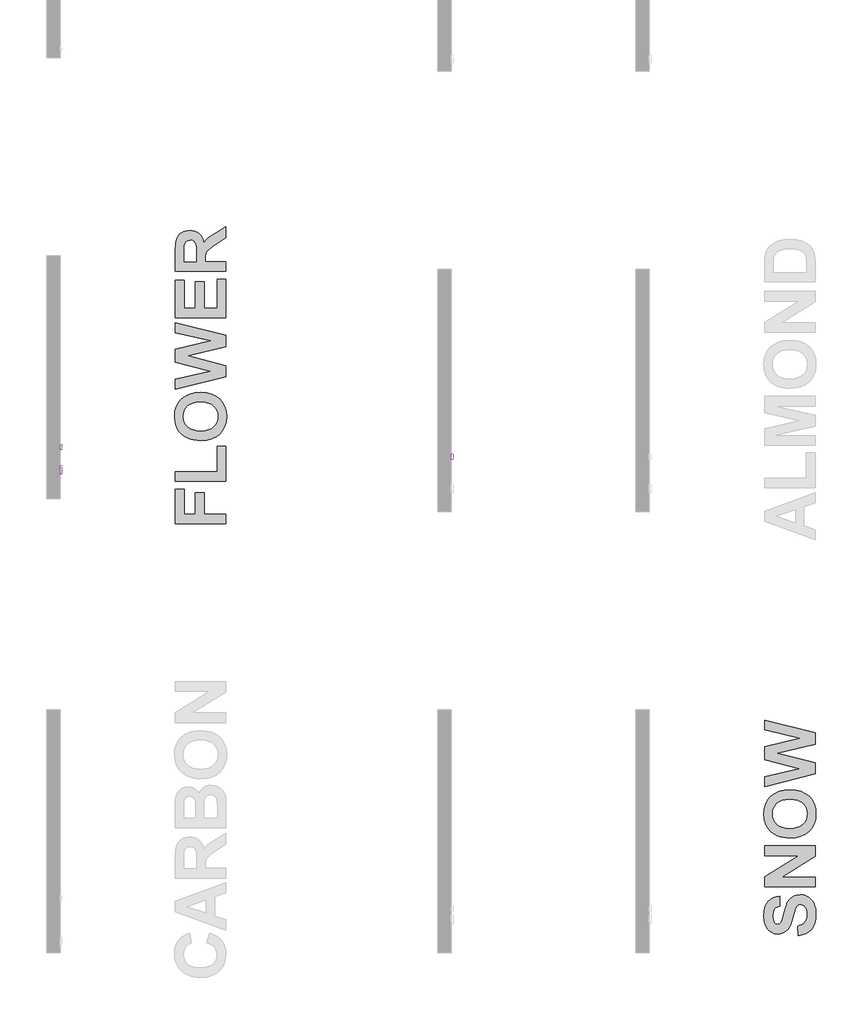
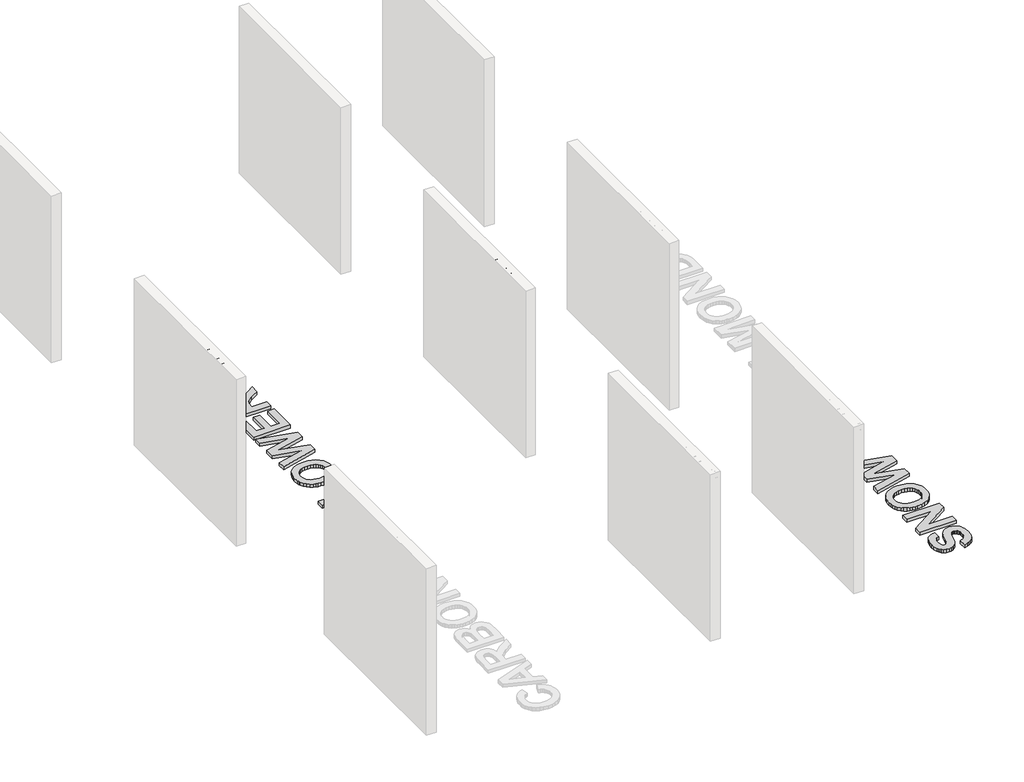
# One storey, part 5 of 10: 5 proxies.
"""IFC4 building model written with IfcOpenShell, lengths in millimetres."""

from ifc_helpers import new_model, si_unit, frame, origin, origin_with_axes, place, context, project, spatial, polyline, outline, extrude, element, save

model = new_model("IFC4")

# Units and contexts
model_context = context("Model", 3, world=origin())
ifc_project = project(units=[si_unit("LENGTHUNIT", "METRE", prefix="MILLI")], contexts=[model_context])

# Site, building, storey
site = spatial("IfcSite", under=ifc_project)
building = spatial("IfcBuilding", under=site)
storey = spatial("IfcBuildingStorey", under=building, Name="PORTOBELLO - SHOWROOM", Elevation=0.0)

# Proxies
placement = place(None, origin())
element("IfcBuildingElementProxy", 1, Name="10mm Arial", ObjectType="10mm Arial", at=placement, inside=storey, context=model_context, shape_type="SweptSolid", body=[
    extrude(outline(polyline([(-4161.6101893, 2518.4745677), (-4161.6101893, 2618.9308778), (-4094.1161059, 2618.9308778), (-4094.1161059, 2606.373839), (-4149.0531505, 2606.373839), (-4149.0531505, 2576.550872), (-4101.9642551, 2576.550872), (-4101.9642551, 2563.9938332), (-4149.0531505, 2563.9938332), (-4149.0531505, 2518.4745677), (-4161.6101893, 2518.4745677)])), frame((-30275.742133, 0.0, 0.0), z_axis=(1.0, 0.0, 0.0), x_axis=(0.0, 1.0, 0.0)), (0.0, 0.0, 1.0), 20.0),
    extrude(outline(polyline([(-30255.742133, -4065.8627687), (-30255.742133, -4078.4198074), (-30275.742133, -4078.4198074), (-30275.742133, -4065.8627687), (-30255.742133, -4065.8627687)])), frame((0.0, 0.0, 2518.4745677), z_axis=(0.0, 0.0, 1.0), x_axis=(1.0, 0.0, 0.0)), (0.0, 0.0, 1.0), 100.4563101),
    extrude(outline(polyline([(-4050.1664702, 2555.360869), (-4047.4502748, 2573.1479635), (-4039.3016886, 2585.64982), (-4029.2339847, 2591.7750552), (-4017.179718, 2593.8168003), (-4003.9880828, 2591.3305311), (-3993.4513293, 2583.8717237), (-3986.5443448, 2572.0289891), (-3984.2420167, 2556.3909386), (-3988.3132441, 2534.0482388), (-4000.1713071, 2521.4053609), (-4017.179718, 2516.9049378), (-4030.5307687, 2519.3820099), (-4041.0552594, 2526.8132262), (-4047.8886675, 2538.9042811), (-4050.1664702, 2555.360869)]), holes=[polyline([(-4037.6094314, 2555.3853945), (-4036.1562975, 2544.0209065), (-4031.7968959, 2535.924437), (-4025.2363337, 2531.0775917), (-4017.179718, 2529.4619766), (-4009.1598905, 2531.0867887), (-4002.611591, 2535.9612252), (-3998.2521893, 2544.1649937), (-3996.7990554, 2555.777802), (-3998.2613864, 2566.8111961), (-4002.6483792, 2574.7973011), (-4009.2058757, 2579.6441464), (-4017.179718, 2581.2597615), (-4025.2363337, 2579.6502778), (-4031.7968959, 2574.8218266), (-4036.1562975, 2566.7437511), (-4037.6094314, 2555.3853945)])]), frame((-30275.742133, 0.0, 0.0), z_axis=(1.0, 0.0, 0.0), x_axis=(0.0, 1.0, 0.0)), (0.0, 0.0, 1.0), 20.0),
    extrude(outline(polyline([(-3957.8771403, 2518.4745677), (-3980.317942, 2592.2471704), (-3967.270394, 2592.2471704), (-3954.5416769, 2549.204977), (-3950.7402296, 2533.8275096), (-3947.6254954, 2548.6408913), (-3937.4964778, 2592.2471704), (-3922.5359433, 2592.2471704), (-3912.4559767, 2548.7635186), (-3909.684599, 2535.3480885), (-3905.7114734, 2549.4992826), (-3892.9582309, 2592.2471704), (-3879.8616319, 2592.2471704), (-3902.4741119, 2518.4745677), (-3917.6553755, 2518.4745677), (-3927.2938838, 2561.7374903), (-3930.089787, 2575.2264968), (-3942.5241984, 2518.4745677), (-3957.8771403, 2518.4745677)])), frame((-30275.742133, 0.0, 0.0), z_axis=(1.0, 0.0, 0.0), x_axis=(0.0, 1.0, 0.0)), (0.0, 0.0, 1.0), 20.0),
    extrude(outline(polyline([(-3819.5780356, 2540.4493855), (-3807.2662515, 2538.8797557), (-3811.7022952, 2529.602998), (-3818.780958, 2522.6684224), (-3828.3428242, 2518.345809), (-3840.2284783, 2516.9049378), (-3854.9621522, 2519.391207), (-3866.299049, 2526.8500144), (-3873.5279302, 2538.7969822), (-3875.9375573, 2554.7477324), (-3873.5034047, 2571.2349771), (-3866.2009471, 2583.5651553), (-3855.0173345, 2591.253889), (-3840.9397168, 2593.8168003), (-3827.3004918, 2591.2600204), (-3816.4019877, 2583.5896808), (-3809.25588, 2571.2840281), (-3806.8738441, 2554.8213088), (-3806.9474205, 2551.4367944), (-3863.3805185, 2551.4367944), (-3861.2069491, 2542.0374095), (-3856.1577687, 2535.1273593), (-3848.8706395, 2530.8783223), (-3839.9832236, 2529.4619766), (-3827.6714395, 2532.0862015), (-3819.5780356, 2540.4493855)]), holes=[polyline([(-3863.3805185, 2563.9938332), (-3819.4308828, 2563.9938332), (-3824.4586034, 2575.3736496), (-3831.7794551, 2579.7882335), (-3840.9887677, 2581.2597615), (-3856.4520743, 2576.5631347), (-3861.3173137, 2571.0724959), (-3863.3805185, 2563.9938332)])]), frame((-30275.742133, 0.0, 0.0), z_axis=(1.0, 0.0, 0.0), x_axis=(0.0, 1.0, 0.0)), (0.0, 0.0, 1.0), 20.0),
    extrude(outline(polyline([(-3794.3168053, 2518.4745677), (-3794.3168053, 2592.2471704), (-3783.3293964, 2592.2471704), (-3783.3293964, 2581.3333379), (-3775.5302981, 2591.3887791), (-3767.6821488, 2593.8168003), (-3755.0760591, 2589.9417766), (-3759.2699139, 2578.6845875), (-3768.0990818, 2581.2597615), (-3775.1992043, 2578.7826894), (-3779.7241528, 2571.9155588), (-3781.7597665, 2557.24933), (-3781.7597665, 2518.4745677), (-3794.3168053, 2518.4745677)])), frame((-30275.742133, 0.0, 0.0), z_axis=(1.0, 0.0, 0.0), x_axis=(0.0, 1.0, 0.0)), (0.0, 0.0, 1.0), 20.0),
])
element("IfcBuildingElementProxy", 2, Name="10mm Arial Narrow", ObjectType="10mm Arial Narrow", at=placement, inside=storey, context=model_context, shape_type="SweptSolid", body=[
    extrude(outline(polyline([(-3709.2962896, 2518.4745677), (-3709.2962896, 2619.1931714), (-3677.999405, 2619.1931714), (-3661.7037034, 2617.3148507), (-3650.2307173, 2607.8344075), (-3645.9410389, 2590.8152987), (-3647.7273473, 2578.7394731), (-3653.0862725, 2569.1130794), (-3662.8300613, 2562.811821), (-3677.7709605, 2560.7114015), (-3699.549328, 2560.7114015), (-3699.549328, 2518.4745677), (-3709.2962896, 2518.4745677)]), holes=[polyline([(-3699.549328, 2572.0828568), (-3676.577973, 2572.0828568), (-3660.7137776, 2576.613671), (-3655.6880005, 2590.2822617), (-3658.162815, 2600.4480381), (-3664.1404439, 2606.247988), (-3676.8064175, 2607.8217162), (-3699.549328, 2607.8217162), (-3699.549328, 2572.0828568)])]), frame((-30275.742133, 0.0, 0.0), z_axis=(1.0, 0.0, 0.0), x_axis=(0.0, 1.0, 0.0)), (0.0, 0.0, 1.0), 20.0),
    extrude(outline(polyline([(-3637.8185708, 2555.0256739), (-3635.864102, 2571.6164494), (-3630.0006954, 2583.5685342), (-3621.1421286, 2590.7930888), (-3610.2021795, 2593.2012737), (-3599.3891439, 2590.7930888), (-3590.5051945, 2583.5685342), (-3584.5656397, 2571.8068198), (-3582.5857881, 2555.7871552), (-3584.5307385, 2538.6252687), (-3590.3655896, 2526.4828135), (-3599.2146378, 2519.2582589), (-3610.2021795, 2516.8500741), (-3621.0628077, 2519.2646046), (-3629.9372386, 2526.5081962), (-3635.8482378, 2538.4666267), (-3637.8185708, 2555.0256739)]), holes=[polyline([(-3628.0716092, 2555.0510566), (-3626.7675723, 2542.4993052), (-3622.8554617, 2533.6280471), (-3617.014265, 2528.3547886), (-3609.9229697, 2526.5970357), (-3603.2028965, 2528.3706528), (-3597.5108232, 2533.6915039), (-3593.6272681, 2542.5786262), (-3592.3327498, 2555.0510566), (-3593.6367867, 2567.5647339), (-3597.5488972, 2576.4233006), (-3603.390094, 2581.6965592), (-3610.4813893, 2583.454312), (-3617.2490551, 2581.6870407), (-3622.9316099, 2576.3852265), (-3626.7866094, 2567.5171413), (-3628.0716092, 2555.0510566)])]), frame((-30275.742133, 0.0, 0.0), z_axis=(1.0, 0.0, 0.0), x_axis=(0.0, 1.0, 0.0)), (0.0, 0.0, 1.0), 20.0),
    extrude(outline(polyline([(-3511.1080694, 2526.5970357), (-3509.4835757, 2516.8500741), (-3516.8445624, 2516.8500741), (-3525.1193267, 2518.9695306), (-3529.4343879, 2524.7694804), (-3530.6019927, 2539.4153056), (-3530.6019927, 2581.8298184), (-3538.7244607, 2581.8298184), (-3538.7244607, 2585.0788056), (-3540.3489543, 2580.2053248), (-3547.9130027, 2581.8298184), (-3553.9921624, 2579.5073002), (-3557.863026, 2573.0220171), (-3559.8428776, 2557.6147106), (-3559.8428776, 2518.4745677), (-3569.5898393, 2518.4745677), (-3569.5898393, 2591.5767801), (-3559.8428776, 2591.5767801), (-3559.8428776, 2581.8805838), (-3553.5987303, 2590.967595), (-3547.2022867, 2593.2012737), (-3538.7244607, 2591.5767801), (-3530.6019927, 2591.5767801), (-3530.6019927, 2607.8217162), (-3520.855031, 2615.9441842), (-3520.855031, 2591.5767801), (-3511.1080694, 2591.5767801), (-3511.1080694, 2581.8298184), (-3520.855031, 2581.8298184), (-3520.855031, 2537.1816269), (-3519.9920188, 2529.1860724), (-3515.3723651, 2526.5970357), (-3511.1080694, 2526.5970357)])), frame((-30275.742133, 0.0, 0.0), z_axis=(1.0, 0.0, 0.0), x_axis=(0.0, 1.0, 0.0)), (0.0, 0.0, 1.0), 20.0),
    extrude(outline(polyline([(-3504.6100949, 2555.0256739), (-3502.655626, 2571.6164494), (-3496.7922194, 2583.5685342), (-3487.9336527, 2590.7930888), (-3476.9937036, 2593.2012737), (-3466.180668, 2590.7930888), (-3457.2967186, 2583.5685342), (-3451.3571638, 2571.8068198), (-3449.3773122, 2555.7871552), (-3451.3222626, 2538.6252687), (-3457.1571136, 2526.4828135), (-3466.0061618, 2519.2582589), (-3476.9937036, 2516.8500741), (-3487.8543317, 2519.2646046), (-3496.7287626, 2526.5081962), (-3502.6397618, 2538.4666267), (-3504.6100949, 2555.0256739)]), holes=[polyline([(-3494.8631333, 2555.0510566), (-3493.5590964, 2542.4993052), (-3489.6469858, 2533.6280471), (-3483.8057891, 2528.3547886), (-3476.7144937, 2526.5970357), (-3469.9944206, 2528.3706528), (-3464.3023472, 2533.6915039), (-3460.4187922, 2542.5786262), (-3459.1242739, 2555.0510566), (-3460.4283107, 2567.5647339), (-3464.3404213, 2576.4233006), (-3470.1816181, 2581.6965592), (-3477.2729134, 2583.454312), (-3484.0405792, 2581.6870407), (-3489.723134, 2576.3852265), (-3493.5781334, 2567.5171413), (-3494.8631333, 2555.0510566)])]), frame((-30275.742133, 0.0, 0.0), z_axis=(1.0, 0.0, 0.0), x_axis=(0.0, 1.0, 0.0)), (0.0, 0.0, 1.0), 20.0),
    extrude(outline(polyline([(-3426.6344017, 2518.4745677), (-3436.3813633, 2518.4745677), (-3436.3813633, 2619.1931714), (-3426.6344017, 2619.1931714), (-3426.6344017, 2583.7842873), (-3419.235341, 2590.8660641), (-3410.0341076, 2593.2012737), (-3397.152381, 2589.0004347), (-3387.8749995, 2576.2710043), (-3384.3975679, 2555.5840935), (-3386.3298269, 2539.1297501), (-3392.1266039, 2526.927011), (-3400.4997262, 2519.3693083), (-3410.1610212, 2516.8500741), (-3419.5018594, 2519.4644935), (-3426.6344017, 2527.2316035), (-3426.6344017, 2518.4745677)]), holes=[polyline([(-3426.6344017, 2555.5840935), (-3424.5530193, 2538.3365403), (-3418.6642299, 2529.6048872), (-3410.2117866, 2526.5970357), (-3404.269059, 2528.3865169), (-3399.0307017, 2533.7549607), (-3394.1445295, 2555.1779701), (-3398.8530227, 2576.613671), (-3404.0977257, 2581.7441518), (-3410.4148483, 2583.454312), (-3416.3924771, 2581.6648308), (-3421.6847727, 2576.2963871), (-3426.6344017, 2555.5840935)])]), frame((-30275.742133, 0.0, 0.0), z_axis=(1.0, 0.0, 0.0), x_axis=(0.0, 1.0, 0.0)), (0.0, 0.0, 1.0), 20.0),
    extrude(outline(polyline([(-3332.4137724, 2541.2174782), (-3322.6668107, 2539.5929846), (-3326.3663411, 2529.706418), (-3332.185328, 2522.5865671), (-3339.8889812, 2518.2841973), (-3349.2425109, 2516.8500741), (-3360.8360649, 2519.2646046), (-3369.9801871, 2526.5081962), (-3375.9197418, 2538.3143304), (-3377.8995934, 2554.4164888), (-3375.9102233, 2571.0834124), (-3369.942113, 2583.2639417), (-3360.9280772, 2590.7169407), (-3349.8009305, 2593.2012737), (-3339.1179813, 2590.8026073), (-3330.370464, 2583.6066083), (-3324.5356129, 2571.8671037), (-3322.5906626, 2555.8379207), (-3322.6668107, 2552.5889335), (-3368.1526318, 2552.5889335), (-3362.1496202, 2533.1457756), (-3356.219584, 2528.2342207), (-3349.1155973, 2526.5970357), (-3338.9371295, 2530.2521463), (-3332.4137724, 2541.2174782)]), holes=[polyline([(-3367.4926812, 2562.3358951), (-3332.4137724, 2562.3358951), (-3336.6780681, 2576.6009796), (-3342.5034006, 2581.7409789), (-3349.7247824, 2583.454312), (-3361.9338672, 2577.7432017), (-3367.4926812, 2562.3358951)])]), frame((-30275.742133, 0.0, 0.0), z_axis=(1.0, 0.0, 0.0), x_axis=(0.0, 1.0, 0.0)), (0.0, 0.0, 1.0), 20.0),
    extrude(outline(polyline([(-30255.742133, -3299.9239002), (-30255.742133, -3309.6708618), (-30275.742133, -3309.6708618), (-30275.742133, -3299.9239002), (-30255.742133, -3299.9239002)])), frame((0.0, 0.0, 2518.4745677), z_axis=(0.0, 0.0, 1.0), x_axis=(1.0, 0.0, 0.0)), (0.0, 0.0, 1.0), 100.7186038),
    extrude(outline(polyline([(-30255.742133, -3273.9320025), (-30255.742133, -3283.6789641), (-30275.742133, -3283.6789641), (-30275.742133, -3273.9320025), (-30255.742133, -3273.9320025)])), frame((0.0, 0.0, 2518.4745677), z_axis=(0.0, 0.0, 1.0), x_axis=(1.0, 0.0, 0.0)), (0.0, 0.0, 1.0), 100.7186038),
    extrude(outline(polyline([(-3262.5605472, 2555.0256739), (-3260.6060783, 2571.6164494), (-3254.7426717, 2583.5685342), (-3245.884105, 2590.7930888), (-3234.9441558, 2593.2012737), (-3224.1311203, 2590.7930888), (-3215.2471708, 2583.5685342), (-3209.3076161, 2571.8068198), (-3207.3277645, 2555.7871552), (-3209.2727148, 2538.6252687), (-3215.1075659, 2526.4828135), (-3223.9566141, 2519.2582589), (-3234.9441558, 2516.8500741), (-3245.804784, 2519.2646046), (-3254.6792149, 2526.5081962), (-3260.5902141, 2538.4666267), (-3262.5605472, 2555.0256739)]), holes=[polyline([(-3252.8135855, 2555.0510566), (-3251.5095487, 2542.4993052), (-3247.5974381, 2533.6280471), (-3241.7562413, 2528.3547886), (-3234.664946, 2526.5970357), (-3227.9448728, 2528.3706528), (-3222.2527995, 2533.6915039), (-3218.3692445, 2542.5786262), (-3217.0747261, 2555.0510566), (-3218.378763, 2567.5647339), (-3222.2908736, 2576.4233006), (-3228.1320703, 2581.6965592), (-3235.2233657, 2583.454312), (-3241.9910314, 2581.6870407), (-3247.6735862, 2576.3852265), (-3251.5285857, 2567.5171413), (-3252.8135855, 2555.0510566)])]), frame((-30275.742133, 0.0, 0.0), z_axis=(1.0, 0.0, 0.0), x_axis=(0.0, 1.0, 0.0)), (0.0, 0.0, 1.0), 20.0),
])
element("IfcBuildingElementProxy", 3, Name="10mm Arial Narrow", ObjectType="10mm Arial Narrow", at=placement, inside=storey, context=model_context, shape_type="SweptSolid", body=[
    extrude(outline(polyline([(-3815.6286257, 2518.4745677), (-3815.6286257, 2619.1931714), (-3784.3317411, 2619.1931714), (-3768.0360395, 2617.3148507), (-3756.5630534, 2607.8344075), (-3752.273375, 2590.8152987), (-3754.0596834, 2578.7394731), (-3759.4186086, 2569.1130794), (-3769.1623974, 2562.811821), (-3784.1032966, 2560.7114015), (-3805.8816641, 2560.7114015), (-3805.8816641, 2518.4745677), (-3815.6286257, 2518.4745677)]), holes=[polyline([(-3805.8816641, 2572.0828568), (-3782.9103091, 2572.0828568), (-3767.0461137, 2576.613671), (-3762.0203366, 2590.2822617), (-3764.4951511, 2600.4480381), (-3770.47278, 2606.247988), (-3783.1387536, 2607.8217162), (-3805.8816641, 2607.8217162), (-3805.8816641, 2572.0828568)])]), frame((-25926.2609603, 0.0, 0.0), z_axis=(1.0, 0.0, 0.0), x_axis=(0.0, 1.0, 0.0)), (0.0, 0.0, 1.0), 20.0),
    extrude(outline(polyline([(-3744.1509069, 2555.0256739), (-3742.1964381, 2571.6164494), (-3736.3330315, 2583.5685342), (-3727.4744647, 2590.7930888), (-3716.5345156, 2593.2012737), (-3705.72148, 2590.7930888), (-3696.8375306, 2583.5685342), (-3690.8979758, 2571.8068198), (-3688.9181242, 2555.7871552), (-3690.8630746, 2538.6252687), (-3696.6979257, 2526.4828135), (-3705.5469739, 2519.2582589), (-3716.5345156, 2516.8500741), (-3727.3951438, 2519.2646046), (-3736.2695747, 2526.5081962), (-3742.1805739, 2538.4666267), (-3744.1509069, 2555.0256739)]), holes=[polyline([(-3734.4039453, 2555.0510566), (-3733.0999084, 2542.4993052), (-3729.1877978, 2533.6280471), (-3723.3466011, 2528.3547886), (-3716.2553058, 2526.5970357), (-3709.5352326, 2528.3706528), (-3703.8431593, 2533.6915039), (-3699.9596042, 2542.5786262), (-3698.6650859, 2555.0510566), (-3699.9691228, 2567.5647339), (-3703.8812333, 2576.4233006), (-3709.7224301, 2581.6965592), (-3716.8137254, 2583.454312), (-3723.5813912, 2581.6870407), (-3729.263946, 2576.3852265), (-3733.1189455, 2567.5171413), (-3734.4039453, 2555.0510566)])]), frame((-25926.2609603, 0.0, 0.0), z_axis=(1.0, 0.0, 0.0), x_axis=(0.0, 1.0, 0.0)), (0.0, 0.0, 1.0), 20.0),
    extrude(outline(polyline([(-3617.4404054, 2526.5970357), (-3615.8159118, 2516.8500741), (-3623.1768985, 2516.8500741), (-3631.4516628, 2518.9695306), (-3635.766724, 2524.7694804), (-3636.9343288, 2539.4153056), (-3636.9343288, 2581.8298184), (-3645.0567968, 2581.8298184), (-3645.0567968, 2585.0788056), (-3646.6812904, 2580.2053248), (-3654.2453388, 2581.8298184), (-3660.3244985, 2579.5073002), (-3664.1953621, 2573.0220171), (-3666.1752137, 2557.6147106), (-3666.1752137, 2518.4745677), (-3675.9221754, 2518.4745677), (-3675.9221754, 2591.5767801), (-3666.1752137, 2591.5767801), (-3666.1752137, 2581.8805838), (-3659.9310664, 2590.967595), (-3653.5346228, 2593.2012737), (-3645.0567968, 2591.5767801), (-3636.9343288, 2591.5767801), (-3636.9343288, 2607.8217162), (-3627.1873671, 2615.9441842), (-3627.1873671, 2591.5767801), (-3617.4404054, 2591.5767801), (-3617.4404054, 2581.8298184), (-3627.1873671, 2581.8298184), (-3627.1873671, 2537.1816269), (-3626.3243549, 2529.1860724), (-3621.7047012, 2526.5970357), (-3617.4404054, 2526.5970357)])), frame((-25926.2609603, 0.0, 0.0), z_axis=(1.0, 0.0, 0.0), x_axis=(0.0, 1.0, 0.0)), (0.0, 0.0, 1.0), 20.0),
    extrude(outline(polyline([(-3610.942431, 2555.0256739), (-3608.9879621, 2571.6164494), (-3603.1245555, 2583.5685342), (-3594.2659888, 2590.7930888), (-3583.3260397, 2593.2012737), (-3572.5130041, 2590.7930888), (-3563.6290547, 2583.5685342), (-3557.6894999, 2571.8068198), (-3555.7096483, 2555.7871552), (-3557.6545987, 2538.6252687), (-3563.4894497, 2526.4828135), (-3572.3384979, 2519.2582589), (-3583.3260397, 2516.8500741), (-3594.1866678, 2519.2646046), (-3603.0610987, 2526.5081962), (-3608.9720979, 2538.4666267), (-3610.942431, 2555.0256739)]), holes=[polyline([(-3601.1954694, 2555.0510566), (-3599.8914325, 2542.4993052), (-3595.9793219, 2533.6280471), (-3590.1381252, 2528.3547886), (-3583.0468298, 2526.5970357), (-3576.3267567, 2528.3706528), (-3570.6346833, 2533.6915039), (-3566.7511283, 2542.5786262), (-3565.45661, 2555.0510566), (-3566.7606468, 2567.5647339), (-3570.6727574, 2576.4233006), (-3576.5139542, 2581.6965592), (-3583.6052495, 2583.454312), (-3590.3729153, 2581.6870407), (-3596.05547, 2576.3852265), (-3599.9104695, 2567.5171413), (-3601.1954694, 2555.0510566)])]), frame((-25926.2609603, 0.0, 0.0), z_axis=(1.0, 0.0, 0.0), x_axis=(0.0, 1.0, 0.0)), (0.0, 0.0, 1.0), 20.0),
    extrude(outline(polyline([(-3532.9667378, 2518.4745677), (-3542.7136994, 2518.4745677), (-3542.7136994, 2619.1931714), (-3532.9667378, 2619.1931714), (-3532.9667378, 2583.7842873), (-3525.5676771, 2590.8660641), (-3516.3664437, 2593.2012737), (-3503.4847171, 2589.0004347), (-3494.2073356, 2576.2710043), (-3490.729904, 2555.5840935), (-3492.662163, 2539.1297501), (-3498.45894, 2526.927011), (-3506.8320623, 2519.3693083), (-3516.4933573, 2516.8500741), (-3525.8341955, 2519.4644935), (-3532.9667378, 2527.2316035), (-3532.9667378, 2518.4745677)]), holes=[polyline([(-3532.9667378, 2555.5840935), (-3530.8853553, 2538.3365403), (-3524.996566, 2529.6048872), (-3516.5441227, 2526.5970357), (-3510.6013951, 2528.3865169), (-3505.3630378, 2533.7549607), (-3500.4768656, 2555.1779701), (-3505.1853588, 2576.613671), (-3510.4300618, 2581.7441518), (-3516.7471844, 2583.454312), (-3522.7248132, 2581.6648308), (-3528.0171088, 2576.2963871), (-3532.9667378, 2555.5840935)])]), frame((-25926.2609603, 0.0, 0.0), z_axis=(1.0, 0.0, 0.0), x_axis=(0.0, 1.0, 0.0)), (0.0, 0.0, 1.0), 20.0),
    extrude(outline(polyline([(-3438.7461085, 2541.2174782), (-3428.9991468, 2539.5929846), (-3432.6986772, 2529.706418), (-3438.5176641, 2522.5865671), (-3446.2213173, 2518.2841973), (-3455.5748469, 2516.8500741), (-3467.1684009, 2519.2646046), (-3476.3125232, 2526.5081962), (-3482.2520779, 2538.3143304), (-3484.2319295, 2554.4164888), (-3482.2425594, 2571.0834124), (-3476.2744491, 2583.2639417), (-3467.2604133, 2590.7169407), (-3456.1332666, 2593.2012737), (-3445.4503174, 2590.8026073), (-3436.7028001, 2583.6066083), (-3430.867949, 2571.8671037), (-3428.9229987, 2555.8379207), (-3428.9991468, 2552.5889335), (-3474.4849679, 2552.5889335), (-3468.4819563, 2533.1457756), (-3462.5519201, 2528.2342207), (-3455.4479334, 2526.5970357), (-3445.2694656, 2530.2521463), (-3438.7461085, 2541.2174782)]), holes=[polyline([(-3473.8250173, 2562.3358951), (-3438.7461085, 2562.3358951), (-3443.0104042, 2576.6009796), (-3448.8357367, 2581.7409789), (-3456.0571185, 2583.454312), (-3468.2662033, 2577.7432017), (-3473.8250173, 2562.3358951)])]), frame((-25926.2609603, 0.0, 0.0), z_axis=(1.0, 0.0, 0.0), x_axis=(0.0, 1.0, 0.0)), (0.0, 0.0, 1.0), 20.0),
    extrude(outline(polyline([(-25906.2609603, -3406.2562363), (-25906.2609603, -3416.0031979), (-25926.2609603, -3416.0031979), (-25926.2609603, -3406.2562363), (-25906.2609603, -3406.2562363)])), frame((0.0, 0.0, 2518.4745677), z_axis=(0.0, 0.0, 1.0), x_axis=(1.0, 0.0, 0.0)), (0.0, 0.0, 1.0), 100.7186038),
    extrude(outline(polyline([(-25906.2609603, -3380.2643385), (-25906.2609603, -3390.0113002), (-25926.2609603, -3390.0113002), (-25926.2609603, -3380.2643385), (-25906.2609603, -3380.2643385)])), frame((0.0, 0.0, 2518.4745677), z_axis=(0.0, 0.0, 1.0), x_axis=(1.0, 0.0, 0.0)), (0.0, 0.0, 1.0), 100.7186038),
    extrude(outline(polyline([(-3368.8928833, 2555.0256739), (-3366.9384144, 2571.6164494), (-3361.0750078, 2583.5685342), (-3352.2164411, 2590.7930888), (-3341.2764919, 2593.2012737), (-3330.4634563, 2590.7930888), (-3321.5795069, 2583.5685342), (-3315.6399522, 2571.8068198), (-3313.6601006, 2555.7871552), (-3315.6050509, 2538.6252687), (-3321.439902, 2526.4828135), (-3330.2889502, 2519.2582589), (-3341.2764919, 2516.8500741), (-3352.1371201, 2519.2646046), (-3361.011551, 2526.5081962), (-3366.9225502, 2538.4666267), (-3368.8928833, 2555.0256739)]), holes=[polyline([(-3359.1459216, 2555.0510566), (-3357.8418848, 2542.4993052), (-3353.9297742, 2533.6280471), (-3348.0885774, 2528.3547886), (-3340.9972821, 2526.5970357), (-3334.2772089, 2528.3706528), (-3328.5851356, 2533.6915039), (-3324.7015806, 2542.5786262), (-3323.4070622, 2555.0510566), (-3324.7110991, 2567.5647339), (-3328.6232097, 2576.4233006), (-3334.4644064, 2581.6965592), (-3341.5557018, 2583.454312), (-3348.3233675, 2581.6870407), (-3354.0059223, 2576.3852265), (-3357.8609218, 2567.5171413), (-3359.1459216, 2555.0510566)])]), frame((-25926.2609603, 0.0, 0.0), z_axis=(1.0, 0.0, 0.0), x_axis=(0.0, 1.0, 0.0)), (0.0, 0.0, 1.0), 20.0),
])
element("IfcBuildingElementProxy", 4, Name="550mm Arial", ObjectType="550mm Arial", at=placement, inside=storey, context=model_context, shape_type="SweptSolid", body=[
    extrude(outline(polyline([(-28432.8826375, -4529.9524949), (-28994.0253074, -4529.9524949), (-28994.0253074, -4146.9503551), (-28896.0480159, -4146.9503551), (-28896.0480159, -4423.0681769), (-28771.3496448, -4423.0681769), (-28771.3496448, -4182.5784612), (-28673.3723532, -4182.5784612), (-28673.3723532, -4423.0681769), (-28432.8826375, -4423.0681769), (-28432.8826375, -4529.9524949)])), origin_with_axes(), (0.0, 0.0, 1.0), 50.0),
    extrude(outline(polyline([(-28432.8826375, -4057.88009), (-28994.0253074, -4057.88009), (-28994.0253074, -3950.995772), (-28530.8599291, -3950.995772), (-28530.8599291, -3665.9709237), (-28432.8826375, -3665.9709237), (-28432.8826375, -4057.88009)])), origin_with_axes(), (0.0, 0.0, 1.0), 50.0),
    extrude(outline(polyline([(-28709.9746652, -3603.6217382), (-28751.0478871, -3602.0473516), (-28788.6765948, -3597.3241921), (-28822.8607883, -3589.4522595), (-28853.6004677, -3578.4315538), (-28894.1517934, -3556.2161772), (-28930.3539851, -3527.1465653), (-28959.9802862, -3493.101544), (-28980.80394, -3455.9599393), (-28990.4851123, -3429.2214633), (-28997.4002355, -3400.4997821), (-29002.932334, -3337.1068044), (-28998.1352391, -3279.2633217), (-28983.7439546, -3227.5086267), (-28959.7584804, -3181.8427193), (-28926.1788165, -3142.2655995), (-28884.0574533, -3110.2994644), (-28834.4468814, -3087.4665107), (-28777.3471006, -3073.7667384), (-28712.758111, -3069.2001477), (-28648.608384, -3073.7319454), (-28591.8521848, -3087.3273384), (-28542.4895135, -3109.9863267), (-28500.52037, -3141.7089104), (-28467.0320379, -3181.0250821), (-28443.1118007, -3226.4648345), (-28428.7596584, -3278.0281676), (-28423.975611, -3335.7150815), (-28428.7379127, -3394.0108741), (-28443.024818, -3446.0091207), (-28466.8363269, -3491.7098211), (-28500.1724393, -3531.1129755), (-28541.858889, -3562.8355592), (-28590.7214099, -3585.4945475), (-28646.760002, -3599.0899405), (-28709.9746652, -3603.6217382)]), holes=[polyline([(-28713.8714893, -3496.7374201), (-28669.4842273, -3493.8974355), (-28630.8204258, -3485.377482), (-28597.8800846, -3471.1775593), (-28570.6632038, -3451.2976677), (-28549.352447, -3427.0425471), (-28534.1304778, -3399.716938), (-28524.9972964, -3369.3208402), (-28521.9529025, -3335.8542538), (-28524.9755507, -3302.4224604), (-28534.0434952, -3272.1307419), (-28549.1567359, -3244.9790981), (-28570.315273, -3220.9675291), (-28597.5191064, -3201.3311889), (-28630.7682361, -3187.3052316), (-28670.0626622, -3178.8896573), (-28715.4023845, -3176.0844658), (-28760.1114824, -3178.815722), (-28798.7665857, -3187.0094905), (-28831.3676945, -3200.6657714), (-28857.9148086, -3219.7845646), (-28878.4949109, -3243.4264572), (-28893.1949839, -3270.6520363), (-28902.0150278, -3301.4613018), (-28904.9550424, -3335.8542538), (-28901.9802347, -3370.2819988), (-28893.0558116, -3401.1956435), (-28878.1817732, -3428.595188), (-28857.3581195, -3452.4806321), (-28830.541359, -3471.8429768), (-28797.6880005, -3485.6732231), (-28758.7980439, -3493.9713708), (-28713.8714893, -3496.7374201)])]), origin_with_axes(), (0.0, 0.0, 1.0), 50.0),
    extrude(outline(polyline([(-28432.8826375, -2892.3121682), (-28994.0253074, -3033.5720417), (-28994.0253074, -2923.9042778), (-28608.5180664, -2833.1639453), (-28994.0253074, -2735.6041705), (-28994.0253074, -2591.8391958), (-28602.1161411, -2494.696938), (-28994.0253074, -2403.9566054), (-28994.0253074, -2294.2888416), (-28432.8826375, -2433.4611307), (-28432.8826375, -2559.9687416), (-28852.3479171, -2663.9304416), (-28432.8826375, -2769.979726), (-28432.8826375, -2892.3121682)])), origin_with_axes(), (0.0, 0.0, 1.0), 50.0),
    extrude(outline(polyline([(-28432.8826375, -2240.8466825), (-28994.0253074, -2240.8466825), (-28994.0253074, -1822.2164367), (-28896.0480159, -1822.2164367), (-28896.0480159, -2133.9623644), (-28771.3496448, -2133.9623644), (-28771.3496448, -1840.0304897), (-28673.3723532, -1840.0304897), (-28673.3723532, -2133.9623644), (-28530.8599291, -2133.9623644), (-28530.8599291, -1813.3094101), (-28432.8826375, -1813.3094101), (-28432.8826375, -2240.8466825)])), origin_with_axes(), (0.0, 0.0, 1.0), 50.0),
    extrude(outline(polyline([(-28432.8826375, -1724.2391451), (-28994.0253074, -1724.2391451), (-28994.0253074, -1488.2029426), (-28990.2328626, -1411.3102528), (-28978.8555279, -1358.7727137), (-28969.7919326, -1339.6017308), (-28957.7709261, -1322.4487462), (-28942.7925085, -1307.3137598), (-28924.8566797, -1294.1967715), (-28904.7375857, -1283.602281), (-28883.2093722, -1276.0347878), (-28860.2720393, -1271.4942918), (-28835.9255869, -1269.9807932), (-28805.5773296, -1272.1684076), (-28777.9951216, -1278.7312509), (-28753.1789627, -1289.669323), (-28731.1288532, -1304.9826239), (-28712.3753872, -1324.6537572), (-28697.4491592, -1348.6653262), (-28686.3501691, -1377.017331), (-28679.078417, -1409.7097715), (-28656.7412646, -1378.7091441), (-28632.3165279, -1353.623339), (-28596.9319733, -1327.667707), (-28541.7153676, -1294.0575992), (-28432.8826375, -1225.4456606), (-28432.8826375, -1350.283204), (-28561.0603158, -1431.5598209), (-28637.1179718, -1495.3703155), (-28650.3219428, -1513.0799893), (-28658.6200905, -1531.8334553), (-28663.0040176, -1556.7278985), (-28664.4653267, -1592.8605041), (-28664.4653267, -1617.354827), (-28432.8826375, -1617.354827), (-28432.8826375, -1724.2391451)]), holes=[polyline([(-28762.4426182, -1617.354827), (-28762.4426182, -1529.2587679), (-28764.0604961, -1459.7248129), (-28768.9141297, -1422.3048637), (-28777.716777, -1403.2730531), (-28791.181696, -1388.9035143), (-28808.9435594, -1379.874712), (-28830.6370399, -1376.8651113), (-28854.6616564, -1380.8315215), (-28873.5716912, -1392.7307522), (-28886.9148344, -1411.866942), (-28894.2387761, -1437.5442294), (-28896.0480159, -1524.3877378), (-28896.0480159, -1617.354827), (-28762.4426182, -1617.354827)])]), origin_with_axes(), (0.0, 0.0, 1.0), 50.0),
])
element("IfcBuildingElementProxy", 5, Name="550mm Arial", ObjectType="550mm Arial", at=placement, inside=storey, context=model_context, shape_type="SweptSolid", body=[
    extrude(outline(polyline([(-22070.4490214, -9106.8064695), (-22079.3560479, -8999.9221515), (-22053.626571, -8993.45064), (-22031.5503666, -8984.3348551), (-22013.1274348, -8972.5747966), (-21998.3577756, -8958.1704647), (-21987.0326306, -8941.0783679), (-21978.9432413, -8921.255015), (-21974.0896077, -8898.7004059), (-21972.4717298, -8873.4145406), (-21973.9025949, -8846.8413316), (-21978.1951902, -8823.7648264), (-21985.3495157, -8804.185025), (-21995.3655714, -8788.1019273), (-22007.2952461, -8775.5590248), (-22020.1904285, -8766.5998086), (-22034.0511187, -8761.224279), (-22048.8773166, -8759.4324358), (-22067.0566969, -8762.4072434), (-22082.3482522, -8771.3316665), (-22095.2738785, -8787.701807), (-22106.355472, -8813.0137671), (-22130.1539335, -8905.7025117), (-22141.7661214, -8948.7241456), (-22154.7526356, -8984.8219581), (-22169.1134762, -9013.9959492), (-22184.8486431, -9036.2461189), (-22209.212492, -9059.3226241), (-22236.0988386, -9075.8058421), (-22265.507683, -9085.6957729), (-22297.4390251, -9088.9924165), (-22338.773195, -9082.938422), (-22377.3239191, -9064.7764382), (-22394.7987396, -9051.3289158), (-22410.0642001, -9035.2023268), (-22423.1203005, -9016.3966712), (-22433.9670408, -8994.911949), (-22448.5801311, -8944.5663734), (-22453.4511613, -8884.8266683), (-22450.4154657, -8835.4074582), (-22441.308379, -8792.503251), (-22426.1299012, -8756.1140465), (-22404.8800323, -8726.2398448), (-22378.5677714, -8702.7849649), (-22348.2021176, -8685.653726), (-22313.7830708, -8674.8461279), (-22275.3106311, -8670.3621707), (-22275.3106311, -8777.2464888), (-22312.0347189, -8789.0587368), (-22325.8954091, -8798.1875692), (-22336.7551968, -8809.4648737), (-22344.9446162, -8823.360357), (-22350.7942014, -8840.3437254), (-22355.4738697, -8883.5741177), (-22350.4984603, -8929.0834563), (-22344.2791987, -8947.6629569), (-22335.5722323, -8963.4590117), (-22320.6112112, -8977.4458268), (-22301.3358492, -8982.1080984), (-22283.1390724, -8977.8633436), (-22267.7953275, -8965.1290792), (-22258.8839518, -8950.4942431), (-22249.8247056, -8928.1614398), (-22231.2626016, -8860.4019316), (-22211.9524465, -8788.0845308), (-22191.7376714, -8737.4432141), (-22167.2607451, -8701.9542803), (-22135.1641359, -8675.0940285), (-22116.1584202, -8665.2301925), (-22095.0477235, -8658.1845954), (-22046.5113877, -8652.5481177), (-22022.9564777, -8654.213836), (-22000.1670154, -8659.210991), (-21978.1430006, -8667.5395827), (-21956.8844335, -8679.199611), (-21937.3481234, -8693.9083824), (-21920.4908798, -8711.3832029), (-21906.3127029, -8731.6240727), (-21894.8135925, -8754.6309918), (-21885.9239625, -8780.5213867), (-21879.5742268, -8809.4126841), (-21874.4944383, -8876.1979864), (-21877.6214656, -8926.1434417), (-21887.0025478, -8969.9305231), (-21902.6376846, -9007.5592308), (-21924.5268762, -9039.0295647), (-21952.4091745, -9064.5589815), (-21986.0236315, -9084.3649379), (-22025.3702471, -9098.4474339), (-22070.4490214, -9106.8064695)])), origin_with_axes(), (0.0, 0.0, 1.0), 50.0),
    extrude(outline(polyline([(-21883.4014648, -8563.4778526), (-22444.5441347, -8563.4778526), (-22444.5441347, -8451.4441598), (-22066.8305419, -8216.1038188), (-22444.5441347, -8216.1038188), (-22444.5441347, -8109.2195007), (-21883.4014648, -8109.2195007), (-21883.4014648, -8224.7325007), (-22255.548166, -8456.5935345), (-21883.4014648, -8456.5935345), (-21883.4014648, -8563.4778526)])), origin_with_axes(), (0.0, 0.0, 1.0), 50.0),
    extrude(outline(polyline([(-22160.4934925, -8020.1492356), (-22201.5667144, -8018.5748491), (-22239.1954221, -8013.8516895), (-22273.3796156, -8005.9797569), (-22304.119295, -7994.9590513), (-22344.6706207, -7972.7436746), (-22380.8728124, -7943.6740627), (-22410.4991135, -7909.6290415), (-22431.3227673, -7872.4874368), (-22441.0039396, -7845.7489607), (-22447.9190628, -7817.0272796), (-22453.4511613, -7753.6343018), (-22448.6540664, -7695.7908192), (-22434.2627819, -7644.0361241), (-22410.2773077, -7598.3702167), (-22376.6976438, -7558.793097), (-22334.5762806, -7526.8269618), (-22284.9657087, -7503.9940081), (-22227.8659279, -7490.2942359), (-22163.2769383, -7485.7276452), (-22099.1272113, -7490.2594428), (-22042.3710121, -7503.8548358), (-21993.0083408, -7526.5138242), (-21951.0391973, -7558.2364078), (-21917.5508652, -7597.5525795), (-21893.630628, -7642.9923319), (-21879.2784857, -7694.5556651), (-21874.4944383, -7752.242579), (-21879.25674, -7810.5383716), (-21893.5436453, -7862.5366181), (-21917.3551542, -7908.2373186), (-21950.6912666, -7947.640473), (-21992.3777163, -7979.3630566), (-22041.2402372, -8002.022045), (-22097.2788293, -8015.617438), (-22160.4934925, -8020.1492356)]), holes=[polyline([(-22164.3903166, -7913.2649175), (-22120.0030546, -7910.424933), (-22081.3392531, -7901.9049794), (-22048.3989119, -7887.7050568), (-22021.1820311, -7867.8251651), (-21999.8712743, -7843.5700446), (-21984.6493051, -7816.2444354), (-21975.5161237, -7785.8483377), (-21972.4717298, -7752.3817512), (-21975.494378, -7718.9499579), (-21984.5623225, -7688.6582393), (-21999.6755632, -7661.5065955), (-22020.8341003, -7637.4950265), (-22048.0379337, -7617.8586863), (-22081.2870634, -7603.8327291), (-22120.5814895, -7595.4171547), (-22165.9212118, -7592.6119633), (-22210.6303097, -7595.3432194), (-22249.285413, -7603.536988), (-22281.8865218, -7617.1932688), (-22308.4336359, -7636.3120621), (-22329.0137382, -7659.9539547), (-22343.7138112, -7687.1795338), (-22352.5338551, -7717.9887993), (-22355.4738697, -7752.3817512), (-22352.499062, -7786.8094963), (-22343.5746389, -7817.723141), (-22328.7006005, -7845.1226854), (-22307.8769468, -7869.0081296), (-22281.0601863, -7888.3704743), (-22248.2068278, -7902.2007205), (-22209.3168712, -7910.4988683), (-22164.3903166, -7913.2649175)])]), origin_with_axes(), (0.0, 0.0, 1.0), 50.0),
    extrude(outline(polyline([(-21883.4014648, -7308.8396656), (-22444.5441347, -7450.0995391), (-22444.5441347, -7340.4317753), (-22059.0368937, -7249.6914427), (-22444.5441347, -7152.131668), (-22444.5441347, -7008.3666933), (-22052.6349684, -6911.2244354), (-22444.5441347, -6820.4841029), (-22444.5441347, -6710.816339), (-21883.4014648, -6849.9886282), (-21883.4014648, -6976.4962391), (-22302.8667444, -7080.4579391), (-21883.4014648, -7186.5072234), (-21883.4014648, -7308.8396656)])), origin_with_axes(), (0.0, 0.0, 1.0), 50.0),
])

save(model, "model.ifc")
